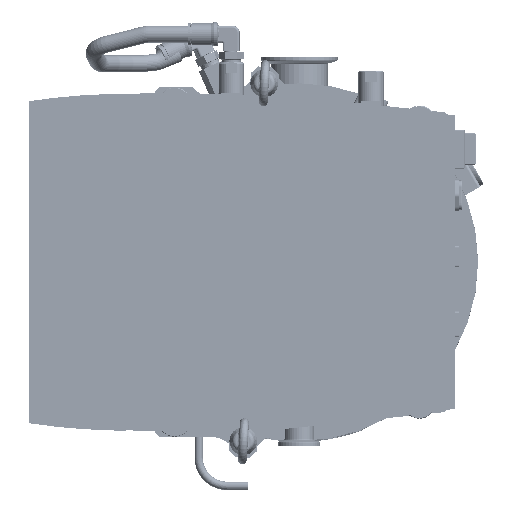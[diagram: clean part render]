
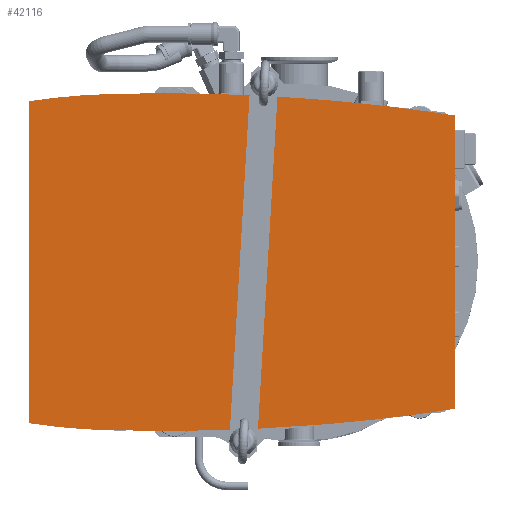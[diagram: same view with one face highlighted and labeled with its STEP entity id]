
A CAD part, front view. The second image highlights one B-rep face of the part: STEP entity #42116.
In plain terms, the highlighted planar face has unit normal (0, -1, 0) as drawn and (0, 1, 0) by its records, which use the part's own axes.
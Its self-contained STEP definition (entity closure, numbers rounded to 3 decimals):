
#37974=CARTESIAN_POINT('',(-1177.573,15.,106.));
#37975=DIRECTION('',(0.,1.,0.));
#37976=DIRECTION('',(0.995,0.,0.1));
#37977=AXIS2_PLACEMENT_3D('',#37974,#37975,#37976);
#37979=DIRECTION('',(0.108,0.,-0.994));
#37980=VECTOR('',#37979,21.233);
#37981=CARTESIAN_POINT('',(111.698,15.,256.444));
#37982=LINE('',#37981,#37980);
#37983=CARTESIAN_POINT('',(-1177.573,15.,106.));
#37984=DIRECTION('',(0.,1.,0.));
#37985=DIRECTION('',(0.988,0.,0.154));
#37986=AXIS2_PLACEMENT_3D('',#37983,#37984,#37985);
#37988=DIRECTION('',(1.,0.,0.));
#37989=VECTOR('',#37988,209.891);
#37990=CARTESIAN_POINT('',(-104.945,15.,306.));
#37991=LINE('',#37990,#37989);
#37992=CARTESIAN_POINT('',(1177.573,15.,106.));
#37993=DIRECTION('',(0.,1.,0.));
#37994=DIRECTION('',(-0.997,0.,0.084));
#37995=AXIS2_PLACEMENT_3D('',#37992,#37993,#37994);
#37997=CARTESIAN_POINT('',(1281.834,15.,97.255));
#37998=DIRECTION('',(0.,1.,0.));
#37999=DIRECTION('',(-1.,0.,-0.028));
#38000=AXIS2_PLACEMENT_3D('',#37997,#37998,#37999);
#38002=CARTESIAN_POINT('',(340.523,15.,71.));
#38003=DIRECTION('',(0.,1.,0.));
#38004=DIRECTION('',(-0.988,0.,-0.152));
#38005=AXIS2_PLACEMENT_3D('',#38002,#38003,#38004);
#38007=DIRECTION('',(-1.,0.,0.));
#38008=VECTOR('',#38007,230.2);
#38009=CARTESIAN_POINT('',(115.1,15.,1.));
#38010=LINE('',#38009,#38008);
#38011=CARTESIAN_POINT('',(-340.523,15.,71.));
#38012=DIRECTION('',(0.,1.,0.));
#38013=DIRECTION('',(1.,0.,-0.028));
#38014=AXIS2_PLACEMENT_3D('',#38011,#38012,#38013);
#38016=CARTESIAN_POINT('',(-1282.134,15.,97.247));
#38017=DIRECTION('',(0.,1.,0.));
#38018=DIRECTION('',(1.,0.,0.027));
#38019=AXIS2_PLACEMENT_3D('',#38016,#38017,#38018);
#38021=DIRECTION('',(0.035,0.,-0.999));
#38022=VECTOR('',#38021,20.925);
#38023=CARTESIAN_POINT('',(119.563,15.,156.42));
#38024=LINE('',#38023,#38022);
#38025=CARTESIAN_POINT('',(-1282.134,15.,97.247));
#38026=DIRECTION('',(0.,1.,0.));
#38027=DIRECTION('',(0.997,0.,0.083));
#38028=AXIS2_PLACEMENT_3D('',#38025,#38026,#38027);
#40380=CARTESIAN_POINT('',(113.987,15.,235.334));
#40381=CARTESIAN_POINT('',(115.922,15.,214.282));
#40382=VERTEX_POINT('',#40380);
#40383=VERTEX_POINT('',#40381);
#40384=CARTESIAN_POINT('',(119.563,15.,156.42));
#40385=VERTEX_POINT('',#40384);
#40386=CARTESIAN_POINT('',(120.29,15.,135.508));
#40387=VERTEX_POINT('',#40386);
#40388=CARTESIAN_POINT('',(120.267,15.,58.156));
#40389=VERTEX_POINT('',#40388);
#40390=CARTESIAN_POINT('',(115.1,15.,1.));
#40391=VERTEX_POINT('',#40390);
#40392=CARTESIAN_POINT('',(-115.1,15.,1.));
#40393=VERTEX_POINT('',#40392);
#40394=CARTESIAN_POINT('',(-120.267,15.,58.148));
#40395=VERTEX_POINT('',#40394);
#40396=CARTESIAN_POINT('',(-115.904,15.,214.489));
#40397=VERTEX_POINT('',#40396);
#40398=CARTESIAN_POINT('',(-104.945,15.,306.));
#40399=VERTEX_POINT('',#40398);
#40400=CARTESIAN_POINT('',(104.945,15.,306.));
#40401=VERTEX_POINT('',#40400);
#40402=CARTESIAN_POINT('',(111.698,15.,256.444));
#40403=VERTEX_POINT('',#40402);
#42086=CARTESIAN_POINT('',(0.,15.,0.));
#42087=DIRECTION('',(0.,1.,0.));
#42088=DIRECTION('',(0.,0.,1.));
#42089=AXIS2_PLACEMENT_3D('',#42086,#42087,#42088);
#42090=PLANE('',#42089);
#42092=ORIENTED_EDGE('',*,*,#42091,.F.);
#42094=ORIENTED_EDGE('',*,*,#42093,.F.);
#42096=ORIENTED_EDGE('',*,*,#42095,.F.);
#42097=ORIENTED_EDGE('',*,*,#41381,.F.);
#42099=ORIENTED_EDGE('',*,*,#42098,.F.);
#42101=ORIENTED_EDGE('',*,*,#42100,.F.);
#42103=ORIENTED_EDGE('',*,*,#42102,.F.);
#42105=ORIENTED_EDGE('',*,*,#42104,.F.);
#42107=ORIENTED_EDGE('',*,*,#42106,.F.);
#42109=ORIENTED_EDGE('',*,*,#42108,.F.);
#42111=ORIENTED_EDGE('',*,*,#42110,.F.);
#42113=ORIENTED_EDGE('',*,*,#42112,.F.);
#42114=EDGE_LOOP('',(#42092,#42094,#42096,#42097,#42099,#42101,#42103,#42105,
#42107,#42109,#42111,#42113));
#42115=FACE_OUTER_BOUND('',#42114,.F.);
#42116=ADVANCED_FACE('',(#42115),#42090,.T.);
#37978=CIRCLE('',#37977,1298.019);
#37987=CIRCLE('',#37986,1298.019);
#37996=CIRCLE('',#37995,1298.019);
#38001=CIRCLE('',#38000,1402.646);
#38006=CIRCLE('',#38005,460.969);
#38015=CIRCLE('',#38014,460.969);
#38020=CIRCLE('',#38019,1402.946);
#38029=CIRCLE('',#38028,1402.946);
#41381=EDGE_CURVE('',#40399,#40401,#37991,.T.);
#42091=EDGE_CURVE('',#40382,#40383,#37978,.T.);
#42093=EDGE_CURVE('',#40403,#40382,#37982,.T.);
#42095=EDGE_CURVE('',#40401,#40403,#37987,.T.);
#42098=EDGE_CURVE('',#40397,#40399,#37996,.T.);
#42100=EDGE_CURVE('',#40395,#40397,#38001,.T.);
#42102=EDGE_CURVE('',#40393,#40395,#38006,.T.);
#42104=EDGE_CURVE('',#40391,#40393,#38010,.T.);
#42106=EDGE_CURVE('',#40389,#40391,#38015,.T.);
#42108=EDGE_CURVE('',#40387,#40389,#38020,.T.);
#42110=EDGE_CURVE('',#40385,#40387,#38024,.T.);
#42112=EDGE_CURVE('',#40383,#40385,#38029,.T.);
